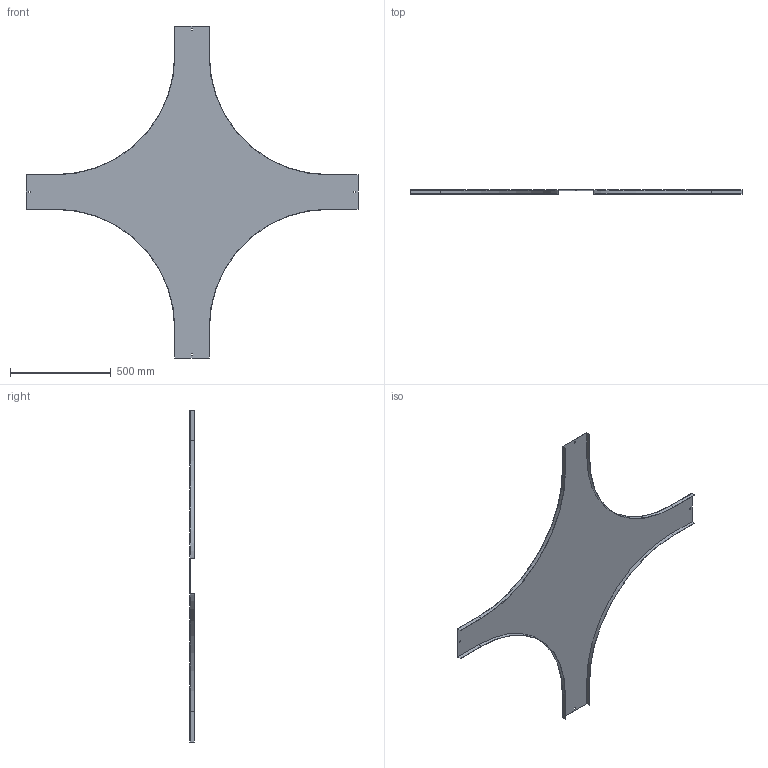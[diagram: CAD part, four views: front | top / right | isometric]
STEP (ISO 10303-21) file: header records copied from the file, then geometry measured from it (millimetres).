
FILE_DESCRIPTION (( 'STEP AP214' ), '1' );
FILE_NAME ('17N6P150.step', '2025-02-21T13:57:25', ( '' ), ( '' ), 'SwSTEP 2.0', 'SolidWorks 2023', '' );
FILE_SCHEMA (( 'AUTOMOTIVE_DESIGN' ));
Length unit declared in the file: millimetre
Products named in the file (1): 17N6P150
Bounding box: 1650 x 20 x 1650 mm (x, y, z)
Volume: 1393087.4 mm3; surface area: 1866242.4 mm2
Topology: 1 solids, 1 shells, 50 faces, 144 edges, 96 vertices
Faces by surface type: plane 42, cylinder 8
Entity records: 1663 total; most frequent: CARTESIAN_POINT 291, ORIENTED_EDGE 288, DIRECTION 262, EDGE_CURVE 144, LINE 128, VECTOR 128, VERTEX_POINT 96, AXIS2_PLACEMENT_3D 67
